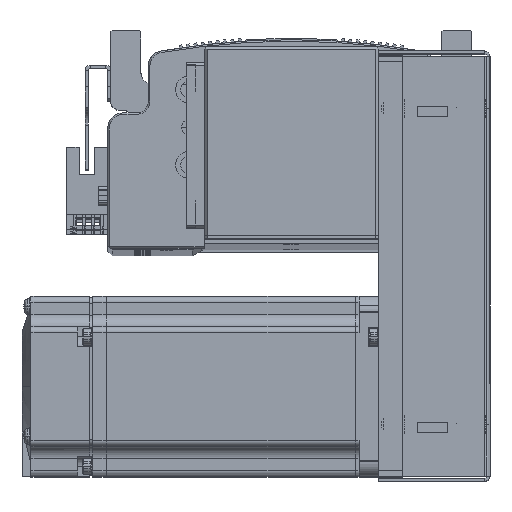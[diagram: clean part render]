
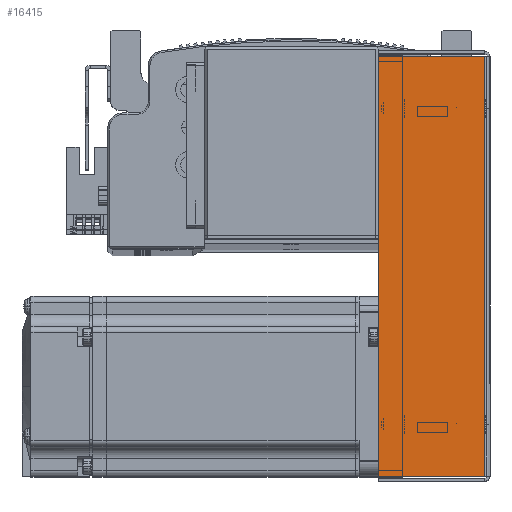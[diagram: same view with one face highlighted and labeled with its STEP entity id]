
A CAD part, top view. The second image highlights one B-rep face of the part: STEP entity #16415.
In plain terms, the highlighted planar face has unit normal (0, 0, 1).
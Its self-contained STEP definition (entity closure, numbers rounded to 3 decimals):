
#3531 = EDGE_LOOP ( 'NONE', ( #51880, #51878, #51902, #52042 ) ) ;
#8039 = FACE_OUTER_BOUND ( 'NONE', #3531, .T. ) ;
#9426 = EDGE_CURVE ( 'NONE', #45495, #61936, #53552, .T. ) ;
#9456 = EDGE_CURVE ( 'NONE', #61928, #61917, #53660, .T. ) ;
#9495 = EDGE_CURVE ( 'NONE', #61917, #61936, #53625, .T. ) ;
#9497 = EDGE_CURVE ( 'NONE', #61928, #45495, #53744, .T. ) ;
#11751 = AXIS2_PLACEMENT_3D ( 'NONE', #27849, #27816, #27805 ) ;
#16415 = ADVANCED_FACE ( 'NONE', ( #8039 ), #27857, .F. ) ;
#27805 = DIRECTION ( 'NONE',  ( -1., 0., 0. ) ) ;
#27816 = DIRECTION ( 'NONE',  ( 0., 0., -1. ) ) ;
#27849 = CARTESIAN_POINT ( 'NONE',  ( 0., 0., 33.5 ) ) ;
#27857 = PLANE ( 'NONE',  #11751 ) ;
#33223 = CARTESIAN_POINT ( 'NONE',  ( 69.793, 36., 33.5 ) ) ;
#33384 = CARTESIAN_POINT ( 'NONE',  ( -69.793, 0.737, 33.5 ) ) ;
#33388 = CARTESIAN_POINT ( 'NONE',  ( -69.793, 36., 33.5 ) ) ;
#33406 = CARTESIAN_POINT ( 'NONE',  ( 69.793, 0.737, 33.5 ) ) ;
#45495 = VERTEX_POINT ( 'NONE', #33223 ) ;
#51878 = ORIENTED_EDGE ( 'NONE', *, *, #9497, .T. ) ;
#51880 = ORIENTED_EDGE ( 'NONE', *, *, #9456, .F. ) ;
#51902 = ORIENTED_EDGE ( 'NONE', *, *, #9426, .T. ) ;
#52042 = ORIENTED_EDGE ( 'NONE', *, *, #9495, .F. ) ;
#53480 = VECTOR ( 'NONE', #66110, 1000. ) ;
#53552 = LINE ( 'NONE', #66069, #53480 ) ;
#53599 = VECTOR ( 'NONE', #66306, 1000. ) ;
#53625 = LINE ( 'NONE', #66650, #53669 ) ;
#53660 = LINE ( 'NONE', #66262, #53599 ) ;
#53669 = VECTOR ( 'NONE', #66605, 1000. ) ;
#53726 = VECTOR ( 'NONE', #66612, 1000. ) ;
#53744 = LINE ( 'NONE', #66625, #53726 ) ;
#61917 = VERTEX_POINT ( 'NONE', #33384 ) ;
#61928 = VERTEX_POINT ( 'NONE', #33406 ) ;
#61936 = VERTEX_POINT ( 'NONE', #33388 ) ;
#66069 = CARTESIAN_POINT ( 'NONE',  ( 0., 36., 33.5 ) ) ;
#66110 = DIRECTION ( 'NONE',  ( -1., 0., 0. ) ) ;
#66262 = CARTESIAN_POINT ( 'NONE',  ( -71.5, 0.737, 33.5 ) ) ;
#66306 = DIRECTION ( 'NONE',  ( -1., 0., 0. ) ) ;
#66605 = DIRECTION ( 'NONE',  ( 0., 1., 0. ) ) ;
#66612 = DIRECTION ( 'NONE',  ( 0., 1., 0. ) ) ;
#66625 = CARTESIAN_POINT ( 'NONE',  ( 69.793, 0., 33.5 ) ) ;
#66650 = CARTESIAN_POINT ( 'NONE',  ( -69.793, 0., 33.5 ) ) ;
